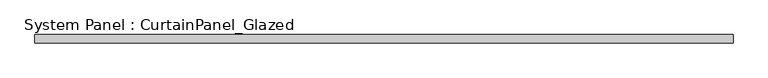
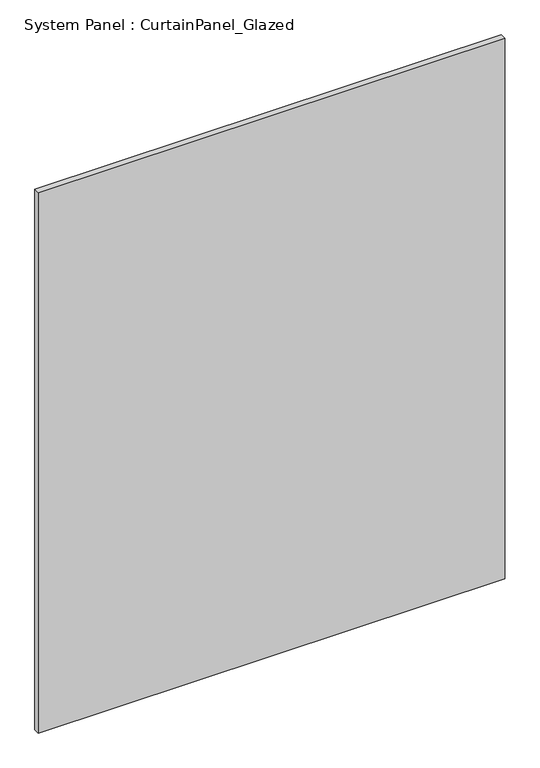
"""IFC4 building model written with IfcOpenShell, lengths in millimetres: plate geometry, System Panel : CurtainPanel_Glazed."""

from ifc_helpers import new_model, si_unit, origin, origin_with_axes, place, context, project, spatial, polyline, outline, extrude, source, transform, mapped, element, save


def system_panel_curtainpanel_glazed_19b159b3(model_context):
    return source(origin(), model_context, "Body", "SweptSolid", [
        extrude(outline(polyline([(1041.0000001, -12.5), (-1041.0000001, -12.5), (-1041.0000001, 12.5), (1041.0000001, 12.5), (1041.0000001, -12.5)])), origin_with_axes(), (0.0, 0.0, 1.0), 2550.0),
    ])


if __name__ == "__main__":
    model = new_model("IFC4")
    model_context = context("Model", 3, world=origin())
    ifc_project = project(units=[si_unit("LENGTHUNIT", "METRE", prefix="MILLI")], contexts=[model_context])
    site = spatial("IfcSite", under=ifc_project)
    building = spatial("IfcBuilding", under=site)
    placement = place(None, origin())
    system_panel_curtainpanel_glazed_shape = system_panel_curtainpanel_glazed_19b159b3(model_context)
    element("IfcPlate", 1, ObjectType="System Panel : CurtainPanel_Glazed", at=placement, inside=building, context=model_context, shape_type="MappedRepresentation", body=[
        mapped(system_panel_curtainpanel_glazed_shape, transform((0.0, 0.0, 0.0), x_axis=(1.0, 0.0, 0.0), y_axis=(0.0, 1.0, 0.0), z_axis=(0.0, 0.0, 1.0))),
    ])
    save(model, "model.ifc")
